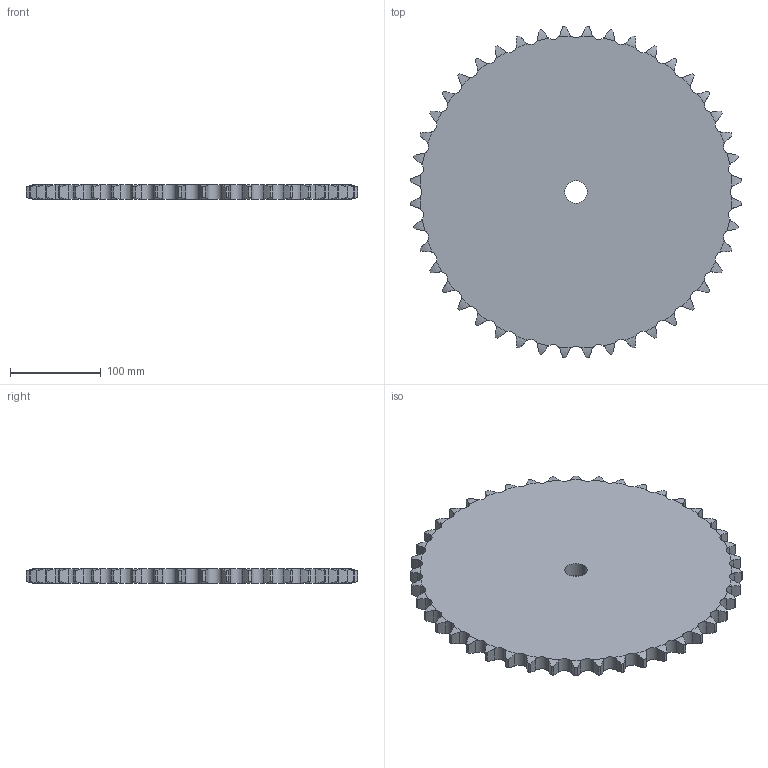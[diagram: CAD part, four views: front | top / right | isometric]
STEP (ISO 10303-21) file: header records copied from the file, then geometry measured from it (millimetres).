
FILE_DESCRIPTION((''),'2;1');
FILE_NAME('500-501-0044_PRT','2021-02-12T',('Brieden'),('Brieden'),'PRO/ENGINEER BY PARAMETRIC TECHNOLOGY CORPORATION, 2010160','PRO/ENGINEER BY PARAMETRIC TECHNOLOGY CORPORATION, 2010160','');
FILE_SCHEMA(('AUTOMOTIVE_DESIGN { 1 0 10303 214 1 1 1 1 }'));
Length unit declared in the file: millimetre
Products named in the file (1): 500-501-0044_PRT
Bounding box: 365.75 x 365.75 x 16.2 mm (x, y, z)
Volume: 1547962.5 mm3; surface area: 218981.2 mm2
Topology: 1 solids, 1 shells, 268 faces, 798 edges, 532 vertices
Faces by surface type: cylinder 178, torus 88, plane 2
Entity records: 13636 total; most frequent: CARTESIAN_POINT 4403, ORIENTED_EDGE 1596, DIRECTION 1250, PRESENTATION_STYLE_ASSIGNMENT 799, STYLED_ITEM 799, CURVE_STYLE 798, EDGE_CURVE 798, AXIS2_PLACEMENT_3D 536
